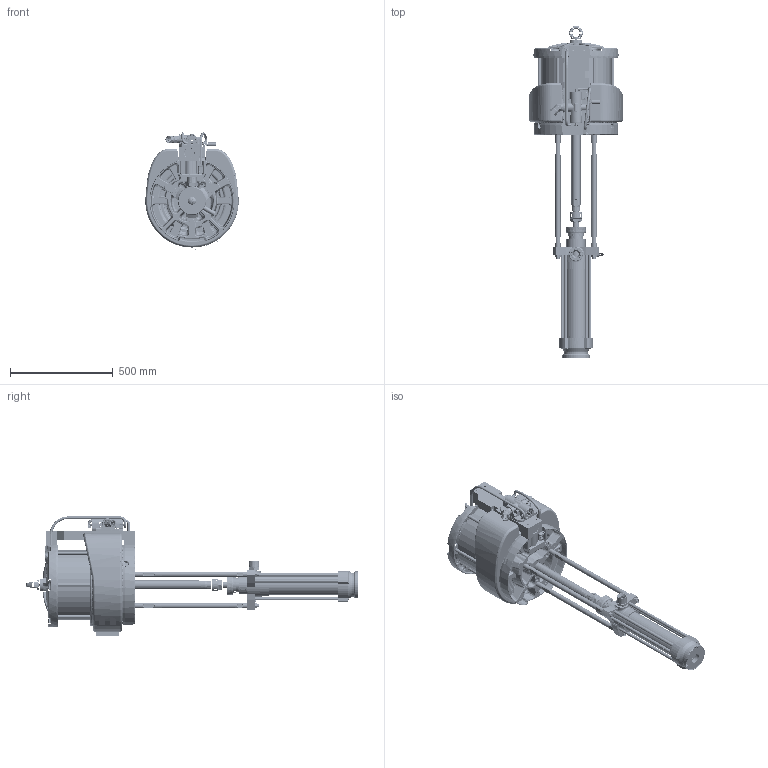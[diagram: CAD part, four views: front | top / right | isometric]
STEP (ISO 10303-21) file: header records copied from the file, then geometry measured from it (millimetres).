
FILE_DESCRIPTION((''),'2;1');
FILE_NAME('25A452-EN-D_PRT','2020-05-28T13:56:42',('qusrh3'),(''),'CREO PARAMETRIC BY PTC INC, 2019030','CREO PARAMETRIC BY PTC INC, 2019030','');
FILE_SCHEMA(('CONFIG_CONTROL_DESIGN'));
Products named in the file (1): 25A452-EN-D_PRT
Bounding box: 454.59 x 1615.99 x 580.2 mm (x, y, z)
Surface area: 4599752.3 mm2 (no closed solid volume)
Topology: 0 solids, 529 shells, 3554 faces, 15090 edges, 11589 vertices
Faces by surface type: plane 1004, bspline 849, cylinder 732, cone 525, torus 434, extrusion 6, sphere 4
Entity records: 223189 total; most frequent: CARTESIAN_POINT 118081, ORIENTED_EDGE 20409, DIRECTION 17907, EDGE_CURVE 15083, VERTEX_POINT 11589, AXIS2_PLACEMENT_3D 7191, B_SPLINE_CURVE_WITH_KNOTS 7078, CIRCLE 4490
